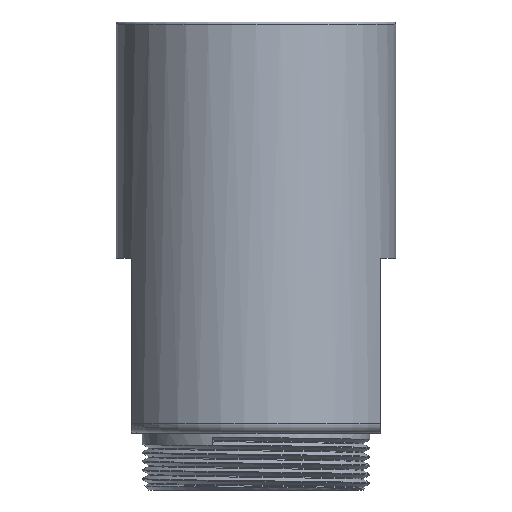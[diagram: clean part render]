
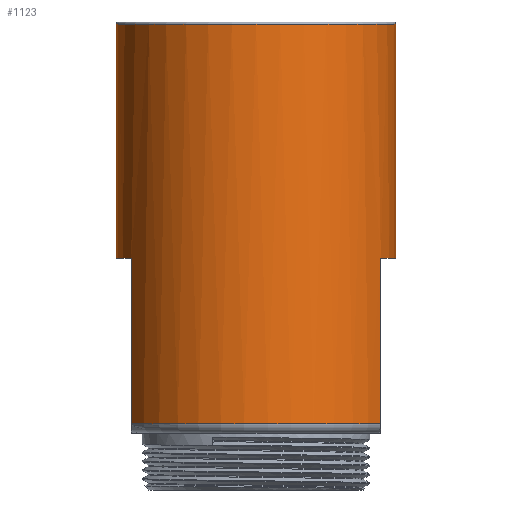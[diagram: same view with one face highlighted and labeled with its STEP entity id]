
A CAD part, front view. The second image highlights one B-rep face of the part: STEP entity #1123.
In plain terms, the highlighted cylindrical face has radius 22.4 mm (diameter 44.8 mm), a partial arc.
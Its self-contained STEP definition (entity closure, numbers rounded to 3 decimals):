
#7 = CARTESIAN_POINT ( 'NONE',  ( -20., -10.088, -37.87 ) ) ;
#65 = EDGE_CURVE ( 'NONE', #4979, #3878, #603, .T. ) ;
#97 = LINE ( 'NONE', #4567, #2291 ) ;
#219 = EDGE_CURVE ( 'NONE', #2069, #3878, #1158, .T. ) ;
#234 = DIRECTION ( 'NONE',  ( 0., 0., 1. ) ) ;
#374 = ORIENTED_EDGE ( 'NONE', *, *, #5444, .F. ) ;
#443 = EDGE_CURVE ( 'NONE', #2069, #844, #3229, .T. ) ;
#603 = CIRCLE ( 'NONE', #1429, 22.4 ) ;
#702 = AXIS2_PLACEMENT_3D ( 'NONE', #4513, #3226, #4943 ) ;
#705 = CARTESIAN_POINT ( 'NONE',  ( -20., -10.088, -64.37 ) ) ;
#844 = VERTEX_POINT ( 'NONE', #5309 ) ;
#898 = CARTESIAN_POINT ( 'NONE',  ( 0., 0., -37.87 ) ) ;
#1056 = DIRECTION ( 'NONE',  ( 0., 0., -1. ) ) ;
#1082 = DIRECTION ( 'NONE',  ( 0., 0., -1. ) ) ;
#1094 = AXIS2_PLACEMENT_3D ( 'NONE', #1616, #234, #4680 ) ;
#1123 = ADVANCED_FACE ( 'NONE', ( #3707 ), #5562, .T. ) ;
#1126 = DIRECTION ( 'NONE',  ( 0., 0., 1. ) ) ;
#1158 = LINE ( 'NONE', #1547, #3503 ) ;
#1249 = DIRECTION ( 'NONE',  ( 0., 0., -1. ) ) ;
#1297 = CARTESIAN_POINT ( 'NONE',  ( -20., -10.088, -37.87 ) ) ;
#1407 = ORIENTED_EDGE ( 'NONE', *, *, #5260, .T. ) ;
#1429 = AXIS2_PLACEMENT_3D ( 'NONE', #4935, #2758, #1924 ) ;
#1531 = CARTESIAN_POINT ( 'NONE',  ( 20., -10.088, -64.37 ) ) ;
#1547 = CARTESIAN_POINT ( 'NONE',  ( 22.4, 0., 6.206 ) ) ;
#1565 = VECTOR ( 'NONE', #4402, 1000. ) ;
#1572 = VECTOR ( 'NONE', #1249, 1000. ) ;
#1616 = CARTESIAN_POINT ( 'NONE',  ( 0., 0., -64.37 ) ) ;
#1665 = CARTESIAN_POINT ( 'NONE',  ( -22.4, 0., -0.4 ) ) ;
#1924 = DIRECTION ( 'NONE',  ( 1., 0., 0. ) ) ;
#1988 = CARTESIAN_POINT ( 'NONE',  ( 0., 0., -37.87 ) ) ;
#2056 = EDGE_CURVE ( 'NONE', #5098, #5370, #3833, .T. ) ;
#2069 = VERTEX_POINT ( 'NONE', #5651 ) ;
#2147 = ORIENTED_EDGE ( 'NONE', *, *, #65, .F. ) ;
#2169 = DIRECTION ( 'NONE',  ( -1., 0., 0. ) ) ;
#2233 = EDGE_CURVE ( 'NONE', #5098, #4791, #3953, .T. ) ;
#2291 = VECTOR ( 'NONE', #1056, 1000. ) ;
#2508 = AXIS2_PLACEMENT_3D ( 'NONE', #1988, #1082, #5414 ) ;
#2758 = DIRECTION ( 'NONE',  ( 0., 0., 1. ) ) ;
#3226 = DIRECTION ( 'NONE',  ( 0., 0., 1. ) ) ;
#3229 = CIRCLE ( 'NONE', #2508, 22.4 ) ;
#3289 = LINE ( 'NONE', #3533, #1565 ) ;
#3344 = EDGE_LOOP ( 'NONE', ( #3432, #4906, #3754, #1407, #374, #4101, #4281, #2147 ) ) ;
#3414 = CIRCLE ( 'NONE', #1094, 22.4 ) ;
#3426 = EDGE_CURVE ( 'NONE', #5370, #4979, #3289, .T. ) ;
#3432 = ORIENTED_EDGE ( 'NONE', *, *, #3426, .F. ) ;
#3491 = CARTESIAN_POINT ( 'NONE',  ( 22.4, 0., -0.4 ) ) ;
#3503 = VECTOR ( 'NONE', #1126, 1000. ) ;
#3533 = CARTESIAN_POINT ( 'NONE',  ( -22.4, 0., 6.206 ) ) ;
#3707 = FACE_OUTER_BOUND ( 'NONE', #3344, .T. ) ;
#3754 = ORIENTED_EDGE ( 'NONE', *, *, #2233, .T. ) ;
#3833 = CIRCLE ( 'NONE', #4487, 22.4 ) ;
#3878 = VERTEX_POINT ( 'NONE', #3491 ) ;
#3953 = LINE ( 'NONE', #1297, #1572 ) ;
#4101 = ORIENTED_EDGE ( 'NONE', *, *, #443, .F. ) ;
#4281 = ORIENTED_EDGE ( 'NONE', *, *, #219, .T. ) ;
#4402 = DIRECTION ( 'NONE',  ( 0., 0., 1. ) ) ;
#4487 = AXIS2_PLACEMENT_3D ( 'NONE', #898, #5706, #2169 ) ;
#4513 = CARTESIAN_POINT ( 'NONE',  ( 0., 0., 6.206 ) ) ;
#4567 = CARTESIAN_POINT ( 'NONE',  ( 20., -10.088, -37.87 ) ) ;
#4636 = VERTEX_POINT ( 'NONE', #1531 ) ;
#4643 = CARTESIAN_POINT ( 'NONE',  ( -22.4, 0., -37.87 ) ) ;
#4680 = DIRECTION ( 'NONE',  ( 1., 0., 0. ) ) ;
#4791 = VERTEX_POINT ( 'NONE', #705 ) ;
#4906 = ORIENTED_EDGE ( 'NONE', *, *, #2056, .F. ) ;
#4935 = CARTESIAN_POINT ( 'NONE',  ( 0., 0., -0.4 ) ) ;
#4943 = DIRECTION ( 'NONE',  ( 1., 0., 0. ) ) ;
#4979 = VERTEX_POINT ( 'NONE', #1665 ) ;
#5098 = VERTEX_POINT ( 'NONE', #7 ) ;
#5260 = EDGE_CURVE ( 'NONE', #4791, #4636, #3414, .T. ) ;
#5309 = CARTESIAN_POINT ( 'NONE',  ( 20., -10.088, -37.87 ) ) ;
#5370 = VERTEX_POINT ( 'NONE', #4643 ) ;
#5414 = DIRECTION ( 'NONE',  ( -1., 0., 0. ) ) ;
#5444 = EDGE_CURVE ( 'NONE', #844, #4636, #97, .T. ) ;
#5562 = CYLINDRICAL_SURFACE ( 'NONE', #702, 22.4 ) ;
#5651 = CARTESIAN_POINT ( 'NONE',  ( 22.4, 0., -37.87 ) ) ;
#5706 = DIRECTION ( 'NONE',  ( 0., 0., -1. ) ) ;
